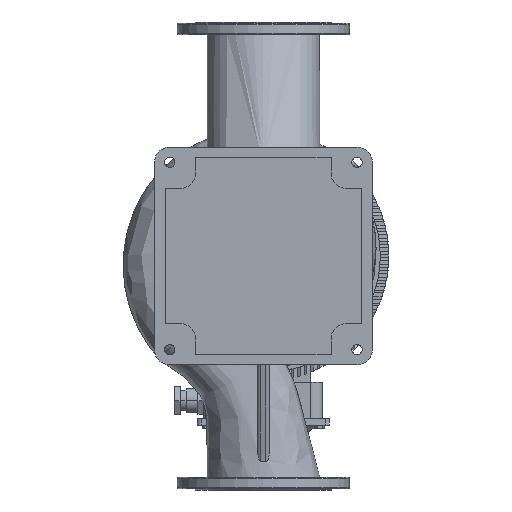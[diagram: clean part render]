
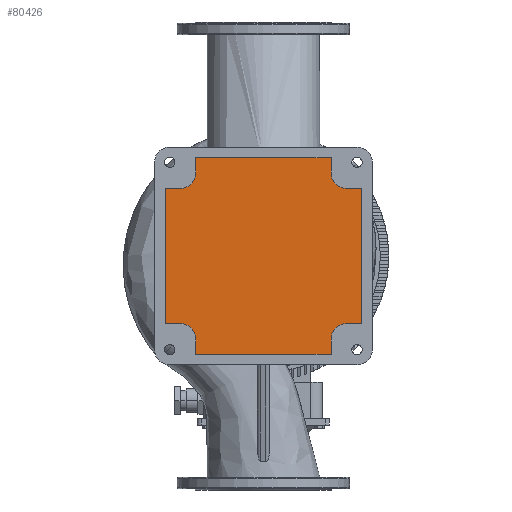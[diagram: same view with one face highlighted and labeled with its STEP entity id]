
A CAD part, front view. The second image highlights one B-rep face of the part: STEP entity #80426.
In plain terms, the highlighted planar face has unit normal (0, -1, 0).
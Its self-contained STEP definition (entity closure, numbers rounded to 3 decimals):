
#123 = ORIENTED_EDGE ( 'NONE', *, *, #57609, .T. ) ;
#179 = CARTESIAN_POINT ( 'NONE',  ( 231., -295., 159. ) ) ;
#502 = CARTESIAN_POINT ( 'NONE',  ( -195., -295., 159. ) ) ;
#773 = LINE ( 'NONE', #13069, #47056 ) ;
#950 = VERTEX_POINT ( 'NONE', #15009 ) ;
#1021 = EDGE_CURVE ( 'NONE', #14514, #29205, #773, .T. ) ;
#2104 = EDGE_CURVE ( 'NONE', #66360, #16167, #78888, .T. ) ;
#2364 = DIRECTION ( 'NONE',  ( 0., 1., 0. ) ) ;
#3009 = EDGE_LOOP ( 'NONE', ( #123, #50243, #16131, #22526, #15619, #82684, #13763, #51684, #10659, #48824, #32907, #45741, #11990, #74220, #5986, #35964 ) ) ;
#3590 = FACE_OUTER_BOUND ( 'NONE', #3009, .T. ) ;
#3613 = VECTOR ( 'NONE', #54592, 1000. ) ;
#4007 = DIRECTION ( 'NONE',  ( 1., 0., 0. ) ) ;
#4305 = CARTESIAN_POINT ( 'NONE',  ( 159., -295., -195. ) ) ;
#5986 = ORIENTED_EDGE ( 'NONE', *, *, #9607, .T. ) ;
#7355 = DIRECTION ( 'NONE',  ( 0., 0., 1. ) ) ;
#8798 = DIRECTION ( 'NONE',  ( 0., 1., 0. ) ) ;
#9155 = LINE ( 'NONE', #60361, #50564 ) ;
#9330 = CARTESIAN_POINT ( 'NONE',  ( -159., -295., 195. ) ) ;
#9540 = DIRECTION ( 'NONE',  ( 0., 0., 1. ) ) ;
#9547 = CARTESIAN_POINT ( 'NONE',  ( -195., -295., -195. ) ) ;
#9607 = EDGE_CURVE ( 'NONE', #61154, #14514, #38261, .T. ) ;
#10367 = PLANE ( 'NONE',  #70542 ) ;
#10562 = EDGE_CURVE ( 'NONE', #63007, #12940, #58302, .T. ) ;
#10659 = ORIENTED_EDGE ( 'NONE', *, *, #56074, .T. ) ;
#11432 = CARTESIAN_POINT ( 'NONE',  ( 195., -295., 159. ) ) ;
#11990 = ORIENTED_EDGE ( 'NONE', *, *, #60400, .T. ) ;
#12940 = VERTEX_POINT ( 'NONE', #36769 ) ;
#13069 = CARTESIAN_POINT ( 'NONE',  ( -195., -295., -159. ) ) ;
#13270 = EDGE_CURVE ( 'NONE', #26609, #61154, #71349, .T. ) ;
#13763 = ORIENTED_EDGE ( 'NONE', *, *, #52915, .T. ) ;
#14514 = VERTEX_POINT ( 'NONE', #80618 ) ;
#15009 = CARTESIAN_POINT ( 'NONE',  ( -159., -295., -195. ) ) ;
#15441 = CARTESIAN_POINT ( 'NONE',  ( 195., -295., -195. ) ) ;
#15619 = ORIENTED_EDGE ( 'NONE', *, *, #10562, .T. ) ;
#15625 = LINE ( 'NONE', #40671, #3613 ) ;
#15804 = DIRECTION ( 'NONE',  ( 0., 0., -1. ) ) ;
#16131 = ORIENTED_EDGE ( 'NONE', *, *, #77404, .T. ) ;
#16167 = VERTEX_POINT ( 'NONE', #67479 ) ;
#16637 = CARTESIAN_POINT ( 'NONE',  ( 195., -295., 159. ) ) ;
#17672 = VERTEX_POINT ( 'NONE', #64348 ) ;
#21416 = VECTOR ( 'NONE', #15804, 1000. ) ;
#21466 = VECTOR ( 'NONE', #64566, 1000. ) ;
#21774 = AXIS2_PLACEMENT_3D ( 'NONE', #15441, #60761, #9540 ) ;
#22526 = ORIENTED_EDGE ( 'NONE', *, *, #29766, .T. ) ;
#24660 = CARTESIAN_POINT ( 'NONE',  ( 231., -295., 159. ) ) ;
#24711 = LINE ( 'NONE', #62405, #75928 ) ;
#26608 = DIRECTION ( 'NONE',  ( 1., 0., 0. ) ) ;
#26609 = VERTEX_POINT ( 'NONE', #502 ) ;
#28520 = CARTESIAN_POINT ( 'NONE',  ( -159., -295., -195. ) ) ;
#28804 = CARTESIAN_POINT ( 'NONE',  ( 159., -295., -231. ) ) ;
#28833 = VERTEX_POINT ( 'NONE', #80712 ) ;
#28912 = VECTOR ( 'NONE', #67445, 1000. ) ;
#29205 = VERTEX_POINT ( 'NONE', #82288 ) ;
#29421 = DIRECTION ( 'NONE',  ( 0., 1., 0. ) ) ;
#29766 = EDGE_CURVE ( 'NONE', #36728, #63007, #15625, .T. ) ;
#30474 = AXIS2_PLACEMENT_3D ( 'NONE', #42202, #41797, #42607 ) ;
#30482 = CARTESIAN_POINT ( 'NONE',  ( 159., -295., -231. ) ) ;
#31022 = VECTOR ( 'NONE', #36453, 1000. ) ;
#32907 = ORIENTED_EDGE ( 'NONE', *, *, #2104, .T. ) ;
#33153 = VECTOR ( 'NONE', #7355, 1000. ) ;
#35469 = DIRECTION ( 'NONE',  ( 0., 0., 1. ) ) ;
#35578 = CARTESIAN_POINT ( 'NONE',  ( 159., -295., 195. ) ) ;
#35964 = ORIENTED_EDGE ( 'NONE', *, *, #1021, .T. ) ;
#36453 = DIRECTION ( 'NONE',  ( 1., 0., 0. ) ) ;
#36728 = VERTEX_POINT ( 'NONE', #28804 ) ;
#36769 = CARTESIAN_POINT ( 'NONE',  ( 195., -295., -159. ) ) ;
#36792 = AXIS2_PLACEMENT_3D ( 'NONE', #52033, #8798, #35469 ) ;
#36908 = AXIS2_PLACEMENT_3D ( 'NONE', #79425, #2364, #67571 ) ;
#36997 = CARTESIAN_POINT ( 'NONE',  ( -231., -295., -159. ) ) ;
#38261 = LINE ( 'NONE', #36997, #55712 ) ;
#40657 = EDGE_CURVE ( 'NONE', #28833, #66360, #74948, .T. ) ;
#40671 = CARTESIAN_POINT ( 'NONE',  ( 159., -295., -195. ) ) ;
#41639 = CARTESIAN_POINT ( 'NONE',  ( -159., -295., 231. ) ) ;
#41797 = DIRECTION ( 'NONE',  ( 0., 1., 0. ) ) ;
#42202 = CARTESIAN_POINT ( 'NONE',  ( -195., -295., 195. ) ) ;
#42607 = DIRECTION ( 'NONE',  ( 0., 0., 1. ) ) ;
#43718 = VERTEX_POINT ( 'NONE', #16637 ) ;
#45078 = CIRCLE ( 'NONE', #36908, 36. ) ;
#45695 = CIRCLE ( 'NONE', #36792, 36. ) ;
#45741 = ORIENTED_EDGE ( 'NONE', *, *, #58556, .T. ) ;
#46781 = VECTOR ( 'NONE', #61393, 1000. ) ;
#47056 = VECTOR ( 'NONE', #26608, 1000. ) ;
#48746 = LINE ( 'NONE', #30482, #31022 ) ;
#48824 = ORIENTED_EDGE ( 'NONE', *, *, #40657, .T. ) ;
#50243 = ORIENTED_EDGE ( 'NONE', *, *, #73791, .T. ) ;
#50564 = VECTOR ( 'NONE', #60801, 1000. ) ;
#51684 = ORIENTED_EDGE ( 'NONE', *, *, #72960, .T. ) ;
#52033 = CARTESIAN_POINT ( 'NONE',  ( 195., -295., 195. ) ) ;
#52915 = EDGE_CURVE ( 'NONE', #54362, #73889, #70051, .T. ) ;
#54362 = VERTEX_POINT ( 'NONE', #57938 ) ;
#54432 = DIRECTION ( 'NONE',  ( 1., 0., 0. ) ) ;
#54592 = DIRECTION ( 'NONE',  ( 0., 0., 1. ) ) ;
#55712 = VECTOR ( 'NONE', #64062, 1000. ) ;
#56074 = EDGE_CURVE ( 'NONE', #43718, #28833, #45695, .T. ) ;
#56417 = VECTOR ( 'NONE', #67772, 1000. ) ;
#57609 = EDGE_CURVE ( 'NONE', #29205, #950, #45078, .T. ) ;
#57938 = CARTESIAN_POINT ( 'NONE',  ( 231., -295., -159. ) ) ;
#58302 = CIRCLE ( 'NONE', #21774, 36. ) ;
#58556 = EDGE_CURVE ( 'NONE', #16167, #70085, #9155, .T. ) ;
#59061 = CARTESIAN_POINT ( 'NONE',  ( -195., -295., 159. ) ) ;
#60361 = CARTESIAN_POINT ( 'NONE',  ( -159., -295., 195. ) ) ;
#60400 = EDGE_CURVE ( 'NONE', #70085, #26609, #71038, .T. ) ;
#60761 = DIRECTION ( 'NONE',  ( 0., 1., 0. ) ) ;
#60801 = DIRECTION ( 'NONE',  ( 0., 0., -1. ) ) ;
#61154 = VERTEX_POINT ( 'NONE', #75217 ) ;
#61393 = DIRECTION ( 'NONE',  ( 0., 0., 1. ) ) ;
#62249 = LINE ( 'NONE', #11432, #56417 ) ;
#62405 = CARTESIAN_POINT ( 'NONE',  ( 195., -295., -159. ) ) ;
#63007 = VERTEX_POINT ( 'NONE', #4305 ) ;
#64062 = DIRECTION ( 'NONE',  ( 0., 0., -1. ) ) ;
#64348 = CARTESIAN_POINT ( 'NONE',  ( -159., -295., -231. ) ) ;
#64566 = DIRECTION ( 'NONE',  ( -1., 0., 0. ) ) ;
#66360 = VERTEX_POINT ( 'NONE', #83561 ) ;
#67445 = DIRECTION ( 'NONE',  ( -1., 0., 0. ) ) ;
#67479 = CARTESIAN_POINT ( 'NONE',  ( -159., -295., 231. ) ) ;
#67571 = DIRECTION ( 'NONE',  ( 0., 0., 1. ) ) ;
#67772 = DIRECTION ( 'NONE',  ( -1., 0., 0. ) ) ;
#70051 = LINE ( 'NONE', #179, #33153 ) ;
#70085 = VERTEX_POINT ( 'NONE', #9330 ) ;
#70542 = AXIS2_PLACEMENT_3D ( 'NONE', #9547, #29421, #54432 ) ;
#71038 = CIRCLE ( 'NONE', #30474, 36. ) ;
#71349 = LINE ( 'NONE', #59061, #21466 ) ;
#72960 = EDGE_CURVE ( 'NONE', #73889, #43718, #62249, .T. ) ;
#73791 = EDGE_CURVE ( 'NONE', #950, #17672, #74661, .T. ) ;
#73889 = VERTEX_POINT ( 'NONE', #24660 ) ;
#74220 = ORIENTED_EDGE ( 'NONE', *, *, #13270, .T. ) ;
#74661 = LINE ( 'NONE', #28520, #21416 ) ;
#74948 = LINE ( 'NONE', #35578, #46781 ) ;
#75217 = CARTESIAN_POINT ( 'NONE',  ( -231., -295., 159. ) ) ;
#75928 = VECTOR ( 'NONE', #4007, 1000. ) ;
#77404 = EDGE_CURVE ( 'NONE', #17672, #36728, #48746, .T. ) ;
#78888 = LINE ( 'NONE', #41639, #28912 ) ;
#79425 = CARTESIAN_POINT ( 'NONE',  ( -195., -295., -195. ) ) ;
#79508 = EDGE_CURVE ( 'NONE', #12940, #54362, #24711, .T. ) ;
#80426 = ADVANCED_FACE ( 'NONE', ( #3590 ), #10367, .F. ) ;
#80618 = CARTESIAN_POINT ( 'NONE',  ( -231., -295., -159. ) ) ;
#80712 = CARTESIAN_POINT ( 'NONE',  ( 159., -295., 195. ) ) ;
#82288 = CARTESIAN_POINT ( 'NONE',  ( -195., -295., -159. ) ) ;
#82684 = ORIENTED_EDGE ( 'NONE', *, *, #79508, .T. ) ;
#83561 = CARTESIAN_POINT ( 'NONE',  ( 159., -295., 231. ) ) ;
